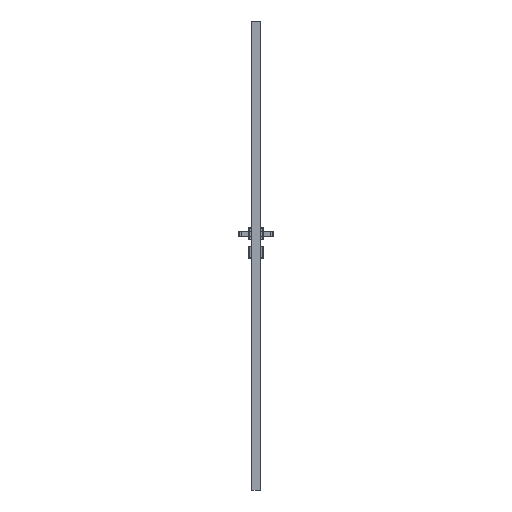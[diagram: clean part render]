
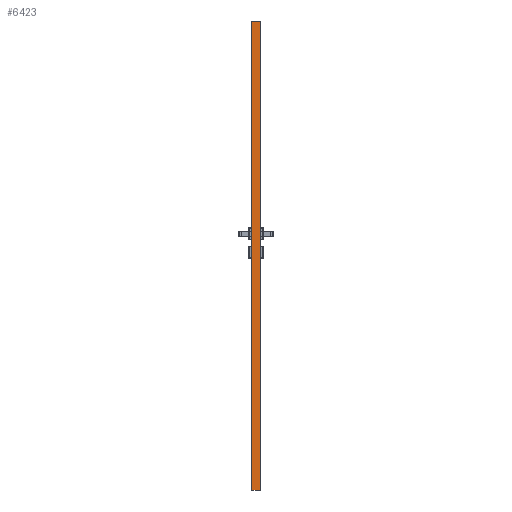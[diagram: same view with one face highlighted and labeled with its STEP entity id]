
A CAD part, left-side view. The second image highlights one B-rep face of the part: STEP entity #6423.
In plain terms, the highlighted planar face has unit normal (-1, 0, 0).
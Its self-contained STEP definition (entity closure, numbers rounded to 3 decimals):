
#6423=ADVANCED_FACE('',(#11352),#9350,.F.);
#9350=PLANE('',#57420);
#11352=FACE_OUTER_BOUND('',#14783,.T.);
#14783=EDGE_LOOP('',(#20994,#20995,#20996,#20997,#20998,#20999));
#20994=ORIENTED_EDGE('',*,*,#39505,.T.);
#20995=ORIENTED_EDGE('',*,*,#39501,.F.);
#20996=ORIENTED_EDGE('',*,*,#40098,.T.);
#20997=ORIENTED_EDGE('',*,*,#40289,.T.);
#20998=ORIENTED_EDGE('',*,*,#40288,.T.);
#20999=ORIENTED_EDGE('',*,*,#39611,.T.);
#34246=VERTEX_POINT('',#79377);
#34247=VERTEX_POINT('',#79378);
#34250=VERTEX_POINT('',#79386);
#34340=VERTEX_POINT('',#79618);
#34628=VERTEX_POINT('',#81948);
#34719=VERTEX_POINT('',#82954);
#39501=EDGE_CURVE('',#34246,#34247,#47056,.T.);
#39505=EDGE_CURVE('',#34250,#34247,#47060,.T.);
#39611=EDGE_CURVE('',#34340,#34250,#47156,.T.);
#40098=EDGE_CURVE('',#34246,#34628,#47427,.T.);
#40288=EDGE_CURVE('',#34719,#34340,#47531,.T.);
#40289=EDGE_CURVE('',#34628,#34719,#47532,.T.);
#47056=LINE('',#79376,#51998);
#47060=LINE('',#79385,#52002);
#47156=LINE('',#79617,#52098);
#47427=LINE('',#81949,#52369);
#47531=LINE('',#82955,#52473);
#47532=LINE('',#82957,#52474);
#51998=VECTOR('',#62345,1.);
#52002=VECTOR('',#62351,1.);
#52098=VECTOR('',#62491,1.);
#52369=VECTOR('',#63086,1.);
#52473=VECTOR('',#63344,1.);
#52474=VECTOR('',#63347,1.);
#57420=AXIS2_PLACEMENT_3D('',#82958,#63348,#63349);
#62345=DIRECTION('',(0.,0.,-1.));
#62351=DIRECTION('',(0.,-0.894,0.447));
#62491=DIRECTION('',(0.,-1.,0.));
#63086=DIRECTION('',(0.,1.,0.));
#63344=DIRECTION('',(0.,-0.894,-0.447));
#63347=DIRECTION('',(0.,0.,-1.));
#63348=DIRECTION('',(1.,0.,0.));
#63349=DIRECTION('',(0.,0.,-1.));
#79376=CARTESIAN_POINT('',(-309.,-40.,2250.));
#79377=CARTESIAN_POINT('',(-309.,-40.,2017.));
#79378=CARTESIAN_POINT('',(-309.,-40.,1.));
#79385=CARTESIAN_POINT('',(-309.,-38.,0.));
#79386=CARTESIAN_POINT('',(-309.,-38.,0.));
#79617=CARTESIAN_POINT('',(-309.,0.,0.));
#79618=CARTESIAN_POINT('',(-309.,-2.,0.));
#81948=CARTESIAN_POINT('',(-309.,0.,2017.));
#81949=CARTESIAN_POINT('',(-309.,-40.,2017.));
#82954=CARTESIAN_POINT('',(-309.,0.,1.));
#82955=CARTESIAN_POINT('',(-309.,0.,1.));
#82957=CARTESIAN_POINT('',(-309.,0.,2250.));
#82958=CARTESIAN_POINT('',(-309.,0.,2250.));
